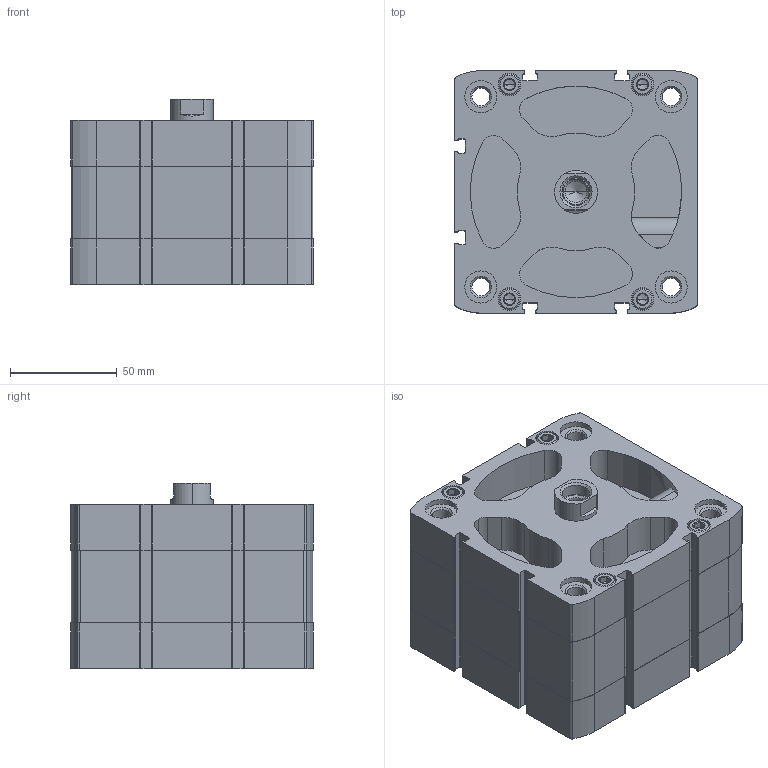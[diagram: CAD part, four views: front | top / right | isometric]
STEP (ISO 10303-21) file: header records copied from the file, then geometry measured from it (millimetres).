
FILE_DESCRIPTION (( 'STEP AP203' ), '1' );
FILE_NAME ('CCN100-10F.STEP', '2020-06-05T18:12:22', ( '' ), ( '' ), 'SwSTEP 2.0', 'SolidWorks 2019', '' );
FILE_SCHEMA (( 'CONFIG_CONTROL_DESIGN' ));
Length unit declared in the file: millimetre
Products named in the file (1): CCN100-10F
Bounding box: 113.5 x 113.5 x 86.8 mm (x, y, z)
Volume: 728724.1 mm3; surface area: 151366.5 mm2
Topology: 2 solids, 2 shells, 628 faces, 1631 edges, 1043 vertices
Faces by surface type: plane 284, cylinder 270, cone 74
Entity records: 20342 total; most frequent: CARTESIAN_POINT 4507, DIRECTION 3451, ORIENTED_EDGE 3226, EDGE_CURVE 1613, AXIS2_PLACEMENT_3D 1281, VERTEX_POINT 1043, VECTOR 889, LINE 889
